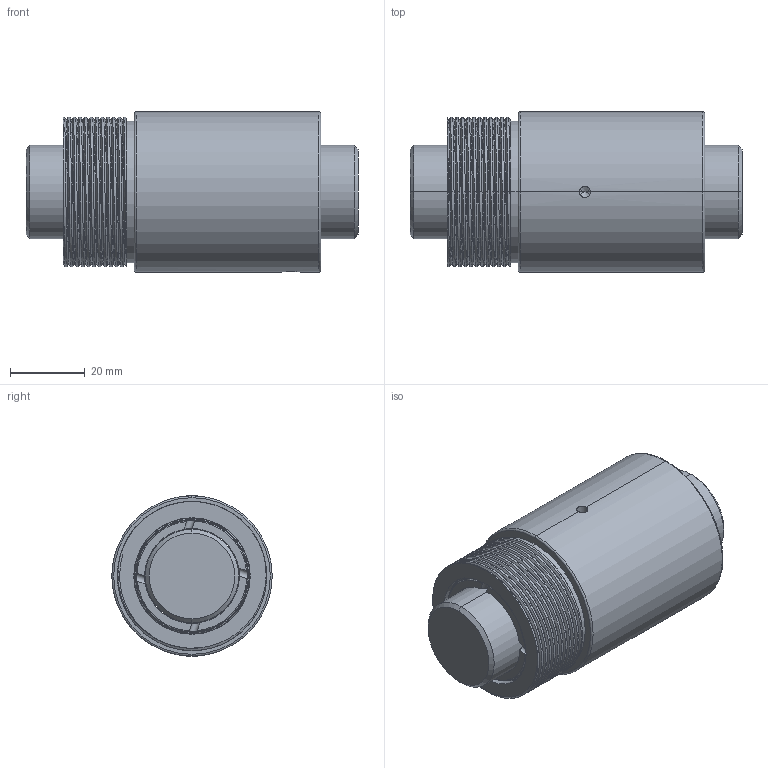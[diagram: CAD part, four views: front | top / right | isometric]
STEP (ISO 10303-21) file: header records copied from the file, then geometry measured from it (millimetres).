
FILE_DESCRIPTION (( 'STEP AP203' ), '1' );
FILE_NAME ('BSHR02505T4-C.STEP', '2020-06-17T07:03:42', ( '' ), ( '' ), 'SwSTEP 2.0', 'SolidWorks 2013', '' );
FILE_SCHEMA (( 'CONFIG_CONTROL_DESIGN' ));
Length unit declared in the file: millimetre
Products named in the file (1): BSHR02505T4-C
Bounding box: 89 x 43 x 43 mm (x, y, z)
Volume: 100614.3 mm3; surface area: 28429.3 mm2
Topology: 2 solids, 2 shells, 120 faces, 316 edges, 201 vertices
Faces by surface type: cylinder 67, torus 24, plane 20, cone 6, bspline 3
Entity records: 6592 total; most frequent: CARTESIAN_POINT 3731, ORIENTED_EDGE 628, DIRECTION 558, EDGE_CURVE 314, AXIS2_PLACEMENT_3D 240, VERTEX_POINT 201, EDGE_LOOP 129, CIRCLE 122
